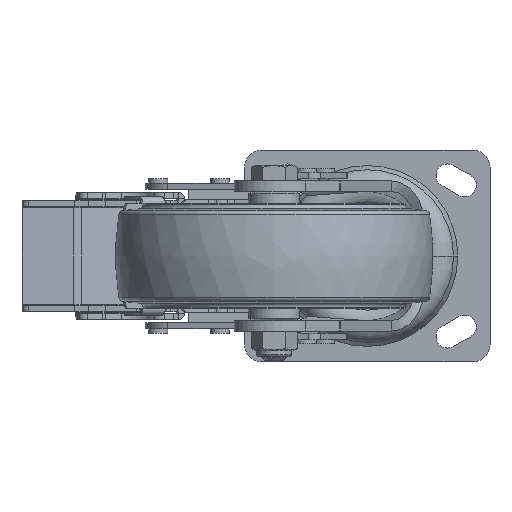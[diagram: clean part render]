
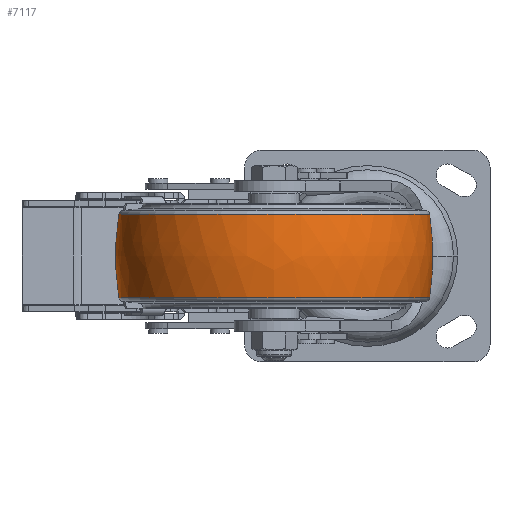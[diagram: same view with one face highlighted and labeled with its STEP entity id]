
A CAD part, front view. The second image highlights one B-rep face of the part: STEP entity #7117.
In plain terms, the highlighted free-form (B-spline) face has degree [3, 3] with [7, 4] control points.
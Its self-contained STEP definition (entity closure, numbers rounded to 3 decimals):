
#5180=CARTESIAN_POINT('',(-19.746,0.,0.));
#5181=DIRECTION('',(-1.,0.,0.));
#5182=DIRECTION('',(0.,1.,0.));
#5183=AXIS2_PLACEMENT_3D('',#5180,#5181,#5182);
#5185=CARTESIAN_POINT('',(0.,-51.741,0.));
#5186=DIRECTION('',(0.,0.,1.));
#5187=DIRECTION('',(0.156,0.988,0.));
#5188=AXIS2_PLACEMENT_3D('',#5185,#5186,#5187);
#5190=CARTESIAN_POINT('',(0.,51.741,
0.));
#5191=DIRECTION('',(0.,0.,-1.));
#5192=DIRECTION('',(0.156,-0.988,0.));
#5193=AXIS2_PLACEMENT_3D('',#5190,#5191,#5192);
#5195=CARTESIAN_POINT('',(19.746,0.,0.));
#5196=DIRECTION('',(-1.,0.,0.));
#5197=DIRECTION('',(0.,1.,0.));
#5198=AXIS2_PLACEMENT_3D('',#5195,#5196,#5197);
#5896=CARTESIAN_POINT('',(19.746,73.452,0.));
#5897=VERTEX_POINT('',#5896);
#5898=CARTESIAN_POINT('',(-19.746,73.452,0.));
#5899=VERTEX_POINT('',#5898);
#5916=CARTESIAN_POINT('',(19.746,-73.452,
0.));
#5917=VERTEX_POINT('',#5916);
#5918=CARTESIAN_POINT('',(-19.746,-73.452,
0.));
#5919=VERTEX_POINT('',#5918);
#7079=CARTESIAN_POINT('',(-20.529,-73.182,
4.604));
#7080=CARTESIAN_POINT('',(-6.904,-75.414,
4.745));
#7081=CARTESIAN_POINT('',(6.904,-75.414,4.745));
#7082=CARTESIAN_POINT('',(20.529,-73.182,4.604));
#7083=CARTESIAN_POINT('',(-20.529,-76.015,
-40.432));
#7084=CARTESIAN_POINT('',(-6.904,-78.334,
-41.665));
#7085=CARTESIAN_POINT('',(6.904,-78.334,
-41.665));
#7086=CARTESIAN_POINT('',(20.529,-76.015,
-40.432));
#7087=CARTESIAN_POINT('',(-20.529,-45.125,
-73.326));
#7088=CARTESIAN_POINT('',(-6.904,-46.501,
-75.563));
#7089=CARTESIAN_POINT('',(6.904,-46.501,
-75.563));
#7090=CARTESIAN_POINT('',(20.529,-45.125,
-73.326));
#7091=CARTESIAN_POINT('',(-20.529,0.,-73.326));
#7092=CARTESIAN_POINT('',(-6.904,0.,-75.563));
#7093=CARTESIAN_POINT('',(6.904,0.,
-75.563));
#7094=CARTESIAN_POINT('',(20.529,0.,-73.326));
#7095=CARTESIAN_POINT('',(-20.529,45.125,
-73.326));
#7096=CARTESIAN_POINT('',(-6.904,46.501,
-75.563));
#7097=CARTESIAN_POINT('',(6.904,46.501,-75.563));
#7098=CARTESIAN_POINT('',(20.529,45.125,-73.326));
#7099=CARTESIAN_POINT('',(-20.529,76.015,
-40.432));
#7100=CARTESIAN_POINT('',(-6.904,78.334,
-41.665));
#7101=CARTESIAN_POINT('',(6.904,78.334,-41.665));
#7102=CARTESIAN_POINT('',(20.529,76.015,-40.432));
#7103=CARTESIAN_POINT('',(-20.529,73.182,4.604));
#7104=CARTESIAN_POINT('',(-6.904,75.414,4.745));
#7105=CARTESIAN_POINT('',(6.904,75.414,4.745));
#7106=CARTESIAN_POINT('',(20.529,73.182,4.604));
#7107=(BOUNDED_SURFACE()B_SPLINE_SURFACE(3,3,((#7079,#7080,#7081,#7082),(#7083,
#7084,#7085,#7086),(#7087,#7088,#7089,#7090),(#7091,#7092,#7093,#7094),(#7095,
#7096,#7097,#7098),(#7099,#7100,#7101,#7102),(#7103,#7104,#7105,#7106)),
.UNSPECIFIED.,.F.,.F.,.F.)B_SPLINE_SURFACE_WITH_KNOTS((4,3,4),(4,4),(0.,1.,
2.),(0.,1.),.UNSPECIFIED.)GEOMETRIC_REPRESENTATION_ITEM()RATIONAL_B_SPLINE_SURFACE(((1.195,1.185,1.185,1.195),(
0.944,0.936,0.936,0.944),(
0.944,0.936,0.936,0.944),(
1.195,1.185,1.185,1.195),(
0.944,0.936,0.936,0.944),(
0.944,0.936,0.936,0.944),(
1.195,1.185,1.185,1.195)))REPRESENTATION_ITEM('')SURFACE());
#7109=ORIENTED_EDGE('',*,*,#7108,.T.);
#7110=ORIENTED_EDGE('',*,*,#7074,.T.);
#7112=ORIENTED_EDGE('',*,*,#7111,.F.);
#7114=ORIENTED_EDGE('',*,*,#7113,.F.);
#7115=EDGE_LOOP('',(#7109,#7110,#7112,#7114));
#7116=FACE_OUTER_BOUND('',#7115,.F.);
#5184=CIRCLE('',#5183,73.452);
#5189=CIRCLE('',#5188,126.741);
#5194=CIRCLE('',#5193,126.741);
#5199=CIRCLE('',#5198,73.452);
#7074=EDGE_CURVE('',#5899,#5919,#5184,.T.);
#7108=EDGE_CURVE('',#5897,#5899,#5189,.T.);
#7111=EDGE_CURVE('',#5917,#5919,#5194,.T.);
#7113=EDGE_CURVE('',#5897,#5917,#5199,.T.);
#7117=ADVANCED_FACE('',(#7116),#7107,.T.);
